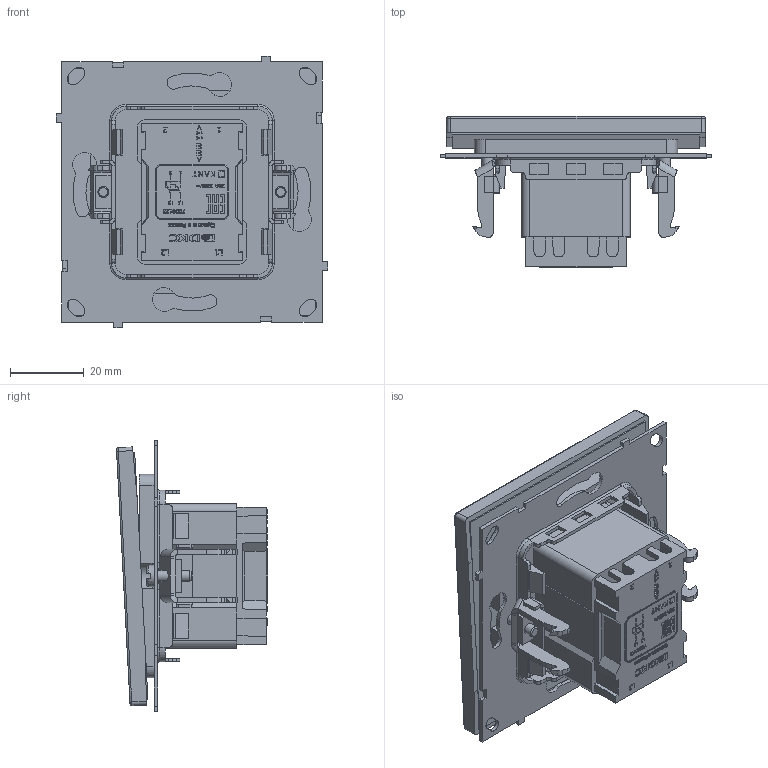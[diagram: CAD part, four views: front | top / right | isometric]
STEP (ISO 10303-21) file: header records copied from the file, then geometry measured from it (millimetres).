
FILE_DESCRIPTION (( 'STEP AP203' ), '1' );
FILE_NAME ('7000123.STEP', '2025-10-28T07:48:17', ( '' ), ( '' ), 'SwSTEP 2.0', 'SolidWorks 2022', '' );
FILE_SCHEMA (( 'CONFIG_CONTROL_DESIGN' ));
Products named in the file (1): 7000123
Bounding box: 73.5 x 40.88 x 73.5 mm (x, y, z)
Volume: 69141.1 mm3; surface area: 27961.7 mm2
Topology: 3 solids, 3 shells, 1606 faces, 4419 edges, 2894 vertices
Faces by surface type: plane 997, bspline 363, cylinder 212, torus 22, cone 12
Full cylindrical faces by diameter (mm): 3 x4, 3.3 x2
Entity records: 63594 total; most frequent: CARTESIAN_POINT 24933, ORIENTED_EDGE 8798, DIRECTION 6551, EDGE_CURVE 4399, LINE 3155, VECTOR 3155, VERTEX_POINT 2886, EDGE_LOOP 1749
